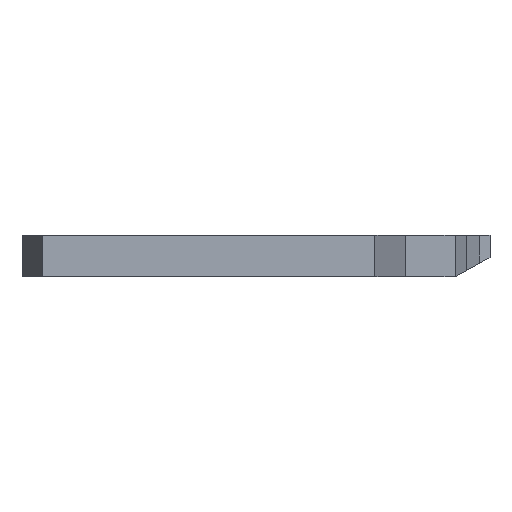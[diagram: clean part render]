
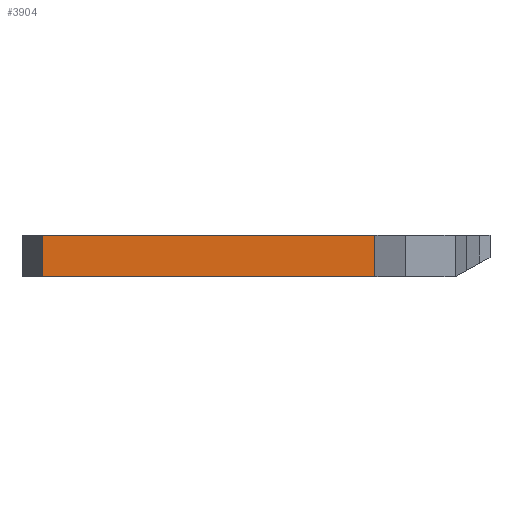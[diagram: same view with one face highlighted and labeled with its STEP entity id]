
A CAD part, left-side view. The second image highlights one B-rep face of the part: STEP entity #3904.
In plain terms, the highlighted planar face has unit normal (-1, 0, 0).
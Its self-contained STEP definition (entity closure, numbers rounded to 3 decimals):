
#536 = PLANE('',#537);
#537 = AXIS2_PLACEMENT_3D('',#538,#539,#540);
#538 = CARTESIAN_POINT('',(0.,121.334,0.25));
#539 = DIRECTION('',(0.,0.,1.));
#540 = DIRECTION('',(1.,0.,-0.));
#1745 = VERTEX_POINT('',#1746);
#1746 = CARTESIAN_POINT('',(-16.6,146.2,0.25));
#1760 = PLANE('',#1761);
#1761 = AXIS2_PLACEMENT_3D('',#1762,#1763,#1764);
#1762 = CARTESIAN_POINT('',(-11.2,148.5,-4.5));
#1763 = DIRECTION('',(0.392,-0.92,0.));
#1764 = DIRECTION('',(-0.92,-0.392,0.));
#1772 = EDGE_CURVE('',#1745,#1773,#1775,.T.);
#1773 = VERTEX_POINT('',#1774);
#1774 = CARTESIAN_POINT('',(-16.6,108.,0.25));
#1775 = SURFACE_CURVE('',#1776,(#1780,#1787),.PCURVE_S1.);
#1776 = LINE('',#1777,#1778);
#1777 = CARTESIAN_POINT('',(-16.6,146.2,0.25));
#1778 = VECTOR('',#1779,1.);
#1779 = DIRECTION('',(0.,-1.,0.));
#1780 = PCURVE('',#536,#1781);
#1781 = DEFINITIONAL_REPRESENTATION('',(#1782),#1786);
#1782 = LINE('',#1783,#1784);
#1783 = CARTESIAN_POINT('',(-16.6,24.866));
#1784 = VECTOR('',#1785,1.);
#1785 = DIRECTION('',(0.,-1.));
#1786 = ( GEOMETRIC_REPRESENTATION_CONTEXT(2) 
PARAMETRIC_REPRESENTATION_CONTEXT() REPRESENTATION_CONTEXT('2D SPACE',''
  ) );
#1787 = PCURVE('',#1788,#1793);
#1788 = PLANE('',#1789);
#1789 = AXIS2_PLACEMENT_3D('',#1790,#1791,#1792);
#1790 = CARTESIAN_POINT('',(-16.6,146.2,-4.5));
#1791 = DIRECTION('',(1.,0.,-0.));
#1792 = DIRECTION('',(0.,-1.,0.));
#1793 = DEFINITIONAL_REPRESENTATION('',(#1794),#1798);
#1794 = LINE('',#1795,#1796);
#1795 = CARTESIAN_POINT('',(0.,-4.75));
#1796 = VECTOR('',#1797,1.);
#1797 = DIRECTION('',(1.,0.));
#1798 = ( GEOMETRIC_REPRESENTATION_CONTEXT(2) 
PARAMETRIC_REPRESENTATION_CONTEXT() REPRESENTATION_CONTEXT('2D SPACE',''
  ) );
#1816 = PLANE('',#1817);
#1817 = AXIS2_PLACEMENT_3D('',#1818,#1819,#1820);
#1818 = CARTESIAN_POINT('',(-16.6,108.,-4.5));
#1819 = DIRECTION('',(0.9,-0.437,0.));
#1820 = DIRECTION('',(-0.437,-0.9,0.));
#2435 = PLANE('',#2436);
#2436 = AXIS2_PLACEMENT_3D('',#2437,#2438,#2439);
#2437 = CARTESIAN_POINT('',(0.,121.334,-4.5));
#2438 = DIRECTION('',(0.,0.,1.));
#2439 = DIRECTION('',(1.,0.,-0.));
#3810 = EDGE_CURVE('',#3811,#1773,#3813,.T.);
#3811 = VERTEX_POINT('',#3812);
#3812 = CARTESIAN_POINT('',(-16.6,108.,-4.5));
#3813 = SURFACE_CURVE('',#3814,(#3818,#3825),.PCURVE_S1.);
#3814 = LINE('',#3815,#3816);
#3815 = CARTESIAN_POINT('',(-16.6,108.,-4.5));
#3816 = VECTOR('',#3817,1.);
#3817 = DIRECTION('',(0.,0.,1.));
#3818 = PCURVE('',#1816,#3819);
#3819 = DEFINITIONAL_REPRESENTATION('',(#3820),#3824);
#3820 = LINE('',#3821,#3822);
#3821 = CARTESIAN_POINT('',(0.,0.));
#3822 = VECTOR('',#3823,1.);
#3823 = DIRECTION('',(0.,-1.));
#3824 = ( GEOMETRIC_REPRESENTATION_CONTEXT(2) 
PARAMETRIC_REPRESENTATION_CONTEXT() REPRESENTATION_CONTEXT('2D SPACE',''
  ) );
#3825 = PCURVE('',#1788,#3826);
#3826 = DEFINITIONAL_REPRESENTATION('',(#3827),#3831);
#3827 = LINE('',#3828,#3829);
#3828 = CARTESIAN_POINT('',(38.2,0.));
#3829 = VECTOR('',#3830,1.);
#3830 = DIRECTION('',(0.,-1.));
#3831 = ( GEOMETRIC_REPRESENTATION_CONTEXT(2) 
PARAMETRIC_REPRESENTATION_CONTEXT() REPRESENTATION_CONTEXT('2D SPACE',''
  ) );
#3904 = ADVANCED_FACE('',(#3905),#1788,.F.);
#3905 = FACE_BOUND('',#3906,.F.);
#3906 = EDGE_LOOP('',(#3907,#3930,#3931,#3932));
#3907 = ORIENTED_EDGE('',*,*,#3908,.T.);
#3908 = EDGE_CURVE('',#3909,#1745,#3911,.T.);
#3909 = VERTEX_POINT('',#3910);
#3910 = CARTESIAN_POINT('',(-16.6,146.2,-4.5));
#3911 = SURFACE_CURVE('',#3912,(#3916,#3923),.PCURVE_S1.);
#3912 = LINE('',#3913,#3914);
#3913 = CARTESIAN_POINT('',(-16.6,146.2,-4.5));
#3914 = VECTOR('',#3915,1.);
#3915 = DIRECTION('',(0.,0.,1.));
#3916 = PCURVE('',#1788,#3917);
#3917 = DEFINITIONAL_REPRESENTATION('',(#3918),#3922);
#3918 = LINE('',#3919,#3920);
#3919 = CARTESIAN_POINT('',(0.,0.));
#3920 = VECTOR('',#3921,1.);
#3921 = DIRECTION('',(0.,-1.));
#3922 = ( GEOMETRIC_REPRESENTATION_CONTEXT(2) 
PARAMETRIC_REPRESENTATION_CONTEXT() REPRESENTATION_CONTEXT('2D SPACE',''
  ) );
#3923 = PCURVE('',#1760,#3924);
#3924 = DEFINITIONAL_REPRESENTATION('',(#3925),#3929);
#3925 = LINE('',#3926,#3927);
#3926 = CARTESIAN_POINT('',(5.869,0.));
#3927 = VECTOR('',#3928,1.);
#3928 = DIRECTION('',(0.,-1.));
#3929 = ( GEOMETRIC_REPRESENTATION_CONTEXT(2) 
PARAMETRIC_REPRESENTATION_CONTEXT() REPRESENTATION_CONTEXT('2D SPACE',''
  ) );
#3930 = ORIENTED_EDGE('',*,*,#1772,.T.);
#3931 = ORIENTED_EDGE('',*,*,#3810,.F.);
#3932 = ORIENTED_EDGE('',*,*,#3933,.F.);
#3933 = EDGE_CURVE('',#3909,#3811,#3934,.T.);
#3934 = SURFACE_CURVE('',#3935,(#3939,#3946),.PCURVE_S1.);
#3935 = LINE('',#3936,#3937);
#3936 = CARTESIAN_POINT('',(-16.6,146.2,-4.5));
#3937 = VECTOR('',#3938,1.);
#3938 = DIRECTION('',(0.,-1.,0.));
#3939 = PCURVE('',#1788,#3940);
#3940 = DEFINITIONAL_REPRESENTATION('',(#3941),#3945);
#3941 = LINE('',#3942,#3943);
#3942 = CARTESIAN_POINT('',(0.,0.));
#3943 = VECTOR('',#3944,1.);
#3944 = DIRECTION('',(1.,0.));
#3945 = ( GEOMETRIC_REPRESENTATION_CONTEXT(2) 
PARAMETRIC_REPRESENTATION_CONTEXT() REPRESENTATION_CONTEXT('2D SPACE',''
  ) );
#3946 = PCURVE('',#2435,#3947);
#3947 = DEFINITIONAL_REPRESENTATION('',(#3948),#3952);
#3948 = LINE('',#3949,#3950);
#3949 = CARTESIAN_POINT('',(-16.6,24.866));
#3950 = VECTOR('',#3951,1.);
#3951 = DIRECTION('',(0.,-1.));
#3952 = ( GEOMETRIC_REPRESENTATION_CONTEXT(2) 
PARAMETRIC_REPRESENTATION_CONTEXT() REPRESENTATION_CONTEXT('2D SPACE',''
  ) );
